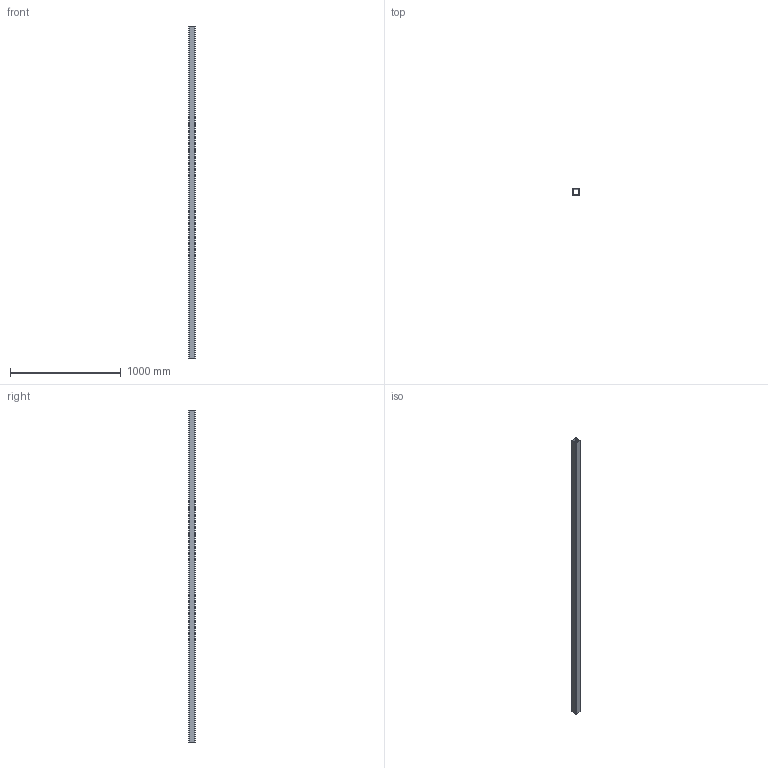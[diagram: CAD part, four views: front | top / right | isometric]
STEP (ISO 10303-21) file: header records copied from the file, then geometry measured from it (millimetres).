
FILE_DESCRIPTION((''),'2;1');
FILE_NAME('9526048000_ASM','2024-11-27T11:08:36',('Stephanie.Hoppe'),(''),'CREO PARAMETRIC BY PTC INC, 2022124','CREO PARAMETRIC BY PTC INC, 2022124','');
FILE_SCHEMA(('AUTOMOTIVE_DESIGN { 1 0 10303 214 1 1 1 1 }'));
Length unit declared in the file: millimetre
Products named in the file (2): 9207002000_AF2; 9526048000_ASM
Assembly tree (1 placements, depth 2):
  9526048000_ASM
    9207002000_AF2
Bounding box: 60 x 60 x 3000 mm (x, y, z)
Volume: 3209867.2 mm3; surface area: 1286086.8 mm2
Topology: 1 solids, 1 shells, 18 faces, 56 edges, 48 vertices
Faces by surface type: plane 10, cylinder 8
Entity records: 1869 total; most frequent: DIRECTION 172, CARTESIAN_POINT 150, COLOUR_RGB 144, PROPERTY_DEFINITION 112, REPRESENTATION 111, PROPERTY_DEFINITION_REPRESENTATION 111, DESCRIPTIVE_REPRESENTATION_ITEM 99, GENERAL_PROPERTY 97
